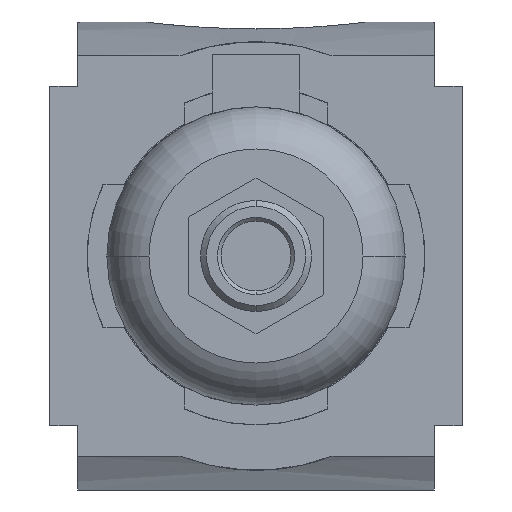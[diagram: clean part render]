
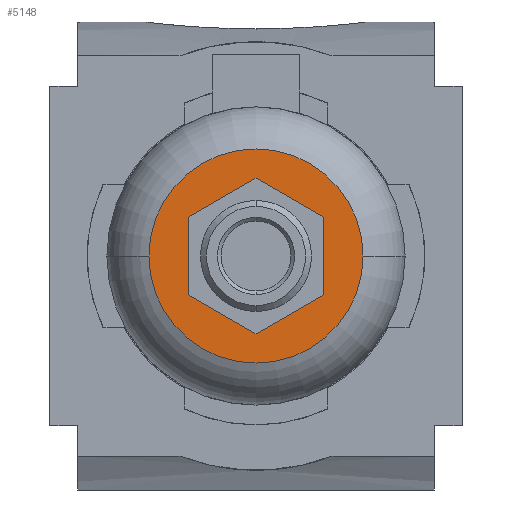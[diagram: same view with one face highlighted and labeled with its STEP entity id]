
A CAD part, front view. The second image highlights one B-rep face of the part: STEP entity #5148.
In plain terms, the highlighted planar face has unit normal (0, -1, 0).
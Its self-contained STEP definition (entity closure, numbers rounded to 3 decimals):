
#4100=CARTESIAN_POINT('',(0.,-100.,0.));
#4101=DIRECTION('',(0.,-1.,0.));
#4102=DIRECTION('',(1.,0.,0.));
#4103=AXIS2_PLACEMENT_3D('',#4100,#4101,#4102);
#4105=DIRECTION('',(0.,0.,1.));
#4106=VECTOR('',#4105,9.815);
#4107=CARTESIAN_POINT('',(-8.5,-100.,-4.907));
#4108=LINE('',#4107,#4106);
#4109=DIRECTION('',(-0.866,0.,0.5));
#4110=VECTOR('',#4109,9.815);
#4111=CARTESIAN_POINT('',(0.,-100.,-9.815));
#4112=LINE('',#4111,#4110);
#4113=DIRECTION('',(-0.866,0.,-0.5));
#4114=VECTOR('',#4113,9.815);
#4115=CARTESIAN_POINT('',(8.5,-100.,-4.907));
#4116=LINE('',#4115,#4114);
#4117=DIRECTION('',(0.,0.,-1.));
#4118=VECTOR('',#4117,9.815);
#4119=CARTESIAN_POINT('',(8.5,-100.,4.907));
#4120=LINE('',#4119,#4118);
#4121=DIRECTION('',(0.866,0.,-0.5));
#4122=VECTOR('',#4121,9.815);
#4123=CARTESIAN_POINT('',(0.,-100.,9.815));
#4124=LINE('',#4123,#4122);
#4125=DIRECTION('',(0.866,0.,0.5));
#4126=VECTOR('',#4125,9.815);
#4127=CARTESIAN_POINT('',(-8.5,-100.,4.907));
#4128=LINE('',#4127,#4126);
#4325=CARTESIAN_POINT('',(0.,-100.,0.));
#4326=DIRECTION('',(0.,-1.,0.));
#4327=DIRECTION('',(-1.,0.,0.));
#4328=AXIS2_PLACEMENT_3D('',#4325,#4326,#4327);
#5064=CARTESIAN_POINT('',(-8.5,-100.,-4.907));
#5065=CARTESIAN_POINT('',(-8.5,-100.,4.907));
#5066=VERTEX_POINT('',#5064);
#5067=VERTEX_POINT('',#5065);
#5068=CARTESIAN_POINT('',(0.,-100.,9.815));
#5069=VERTEX_POINT('',#5068);
#5070=CARTESIAN_POINT('',(8.5,-100.,4.907));
#5071=VERTEX_POINT('',#5070);
#5072=CARTESIAN_POINT('',(8.5,-100.,-4.907));
#5073=VERTEX_POINT('',#5072);
#5074=CARTESIAN_POINT('',(0.,-100.,-9.815));
#5075=VERTEX_POINT('',#5074);
#5076=CARTESIAN_POINT('',(13.5,-100.,0.));
#5077=CARTESIAN_POINT('',(-13.5,-100.,0.));
#5078=VERTEX_POINT('',#5076);
#5079=VERTEX_POINT('',#5077);
#5124=CARTESIAN_POINT('',(0.,-100.,0.));
#5125=DIRECTION('',(0.,-1.,0.));
#5126=DIRECTION('',(1.,0.,0.));
#5127=AXIS2_PLACEMENT_3D('',#5124,#5125,#5126);
#5128=PLANE('',#5127);
#5129=ORIENTED_EDGE('',*,*,#5113,.F.);
#5131=ORIENTED_EDGE('',*,*,#5130,.F.);
#5132=EDGE_LOOP('',(#5129,#5131));
#5133=FACE_OUTER_BOUND('',#5132,.F.);
#5135=ORIENTED_EDGE('',*,*,#5134,.F.);
#5137=ORIENTED_EDGE('',*,*,#5136,.F.);
#5139=ORIENTED_EDGE('',*,*,#5138,.F.);
#5141=ORIENTED_EDGE('',*,*,#5140,.F.);
#5143=ORIENTED_EDGE('',*,*,#5142,.F.);
#5145=ORIENTED_EDGE('',*,*,#5144,.F.);
#5146=EDGE_LOOP('',(#5135,#5137,#5139,#5141,#5143,#5145));
#5147=FACE_BOUND('',#5146,.F.);
#5148=ADVANCED_FACE('',(#5133,#5147),#5128,.T.);
#4104=CIRCLE('',#4103,13.5);
#4329=CIRCLE('',#4328,13.5);
#5113=EDGE_CURVE('',#5078,#5079,#4104,.T.);
#5130=EDGE_CURVE('',#5079,#5078,#4329,.T.);
#5134=EDGE_CURVE('',#5066,#5067,#4108,.T.);
#5136=EDGE_CURVE('',#5075,#5066,#4112,.T.);
#5138=EDGE_CURVE('',#5073,#5075,#4116,.T.);
#5140=EDGE_CURVE('',#5071,#5073,#4120,.T.);
#5142=EDGE_CURVE('',#5069,#5071,#4124,.T.);
#5144=EDGE_CURVE('',#5067,#5069,#4128,.T.);
